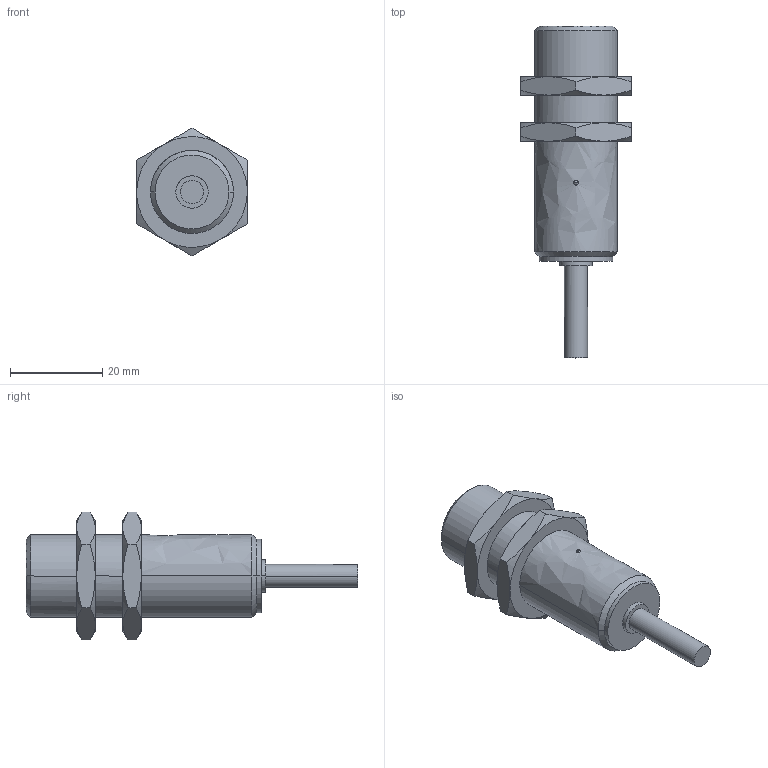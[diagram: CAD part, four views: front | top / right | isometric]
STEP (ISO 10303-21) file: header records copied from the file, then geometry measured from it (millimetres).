
FILE_DESCRIPTION((''),'2;1');
FILE_NAME('U:\imartini\IS_218M_4NO_8N.stp','2009-05-05T12:43:16',( 'User'),('SDRC'),'I-DEAS Master Series 9','UNIX','Yes');
FILE_SCHEMA(('CONFIG_CONTROL_DESIGN', 'GEOMETRIC_VALIDATION_PROPERTIES_MIM','SHAPE_APPEARANCE_LAYER_MIM'));
Length unit declared in the file: millimetre
Bounding box: 24 x 72 x 27.71 mm (x, y, z)
Volume: 15222.1 mm3; surface area: 4753.9 mm2
Topology: 1 solids, 1 shells, 64 faces, 136 edges, 79 vertices
Faces by surface type: bspline 64
Entity records: 2328 total; most frequent: CARTESIAN_POINT 1464, ORIENTED_EDGE 268, EDGE_CURVE 134, VERTEX_POINT 79, EDGE_LOOP 71, FACE_OUTER_BOUND 64, ADVANCED_FACE 64, QUASI_UNIFORM_CURVE 24
